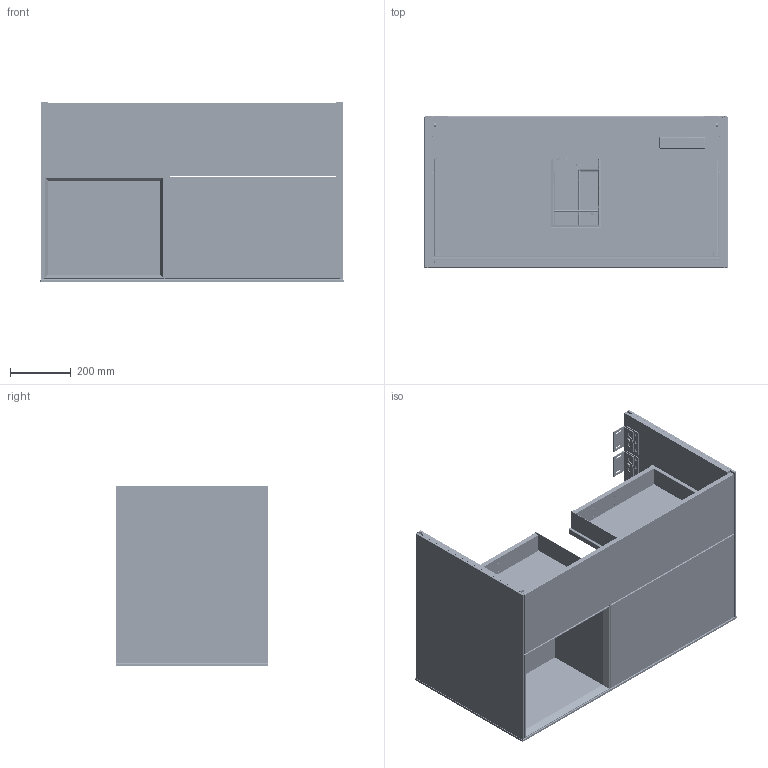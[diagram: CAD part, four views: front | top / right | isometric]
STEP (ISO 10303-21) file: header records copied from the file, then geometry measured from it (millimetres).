
FILE_DESCRIPTION((' '),'2;1');
FILE_NAME('M:\DWG\MÖBEL\3D-Zeichnungen Typen\Finion\STP\Finion_F030YYXX_3D.stp','2017-03-23T09:42:46',(' '),(' '),' ','ACIS',' ');
FILE_SCHEMA(('CONFIG_CONTROL_DESIGN'));
Length unit declared in the file: millimetre
Products named in the file (112): M:\DWG\MÖBEL\3D-Zeichnungen Typen\Finion\STP\Finion_F030YYXX_3D.stp; Körper1; Körper2; Körper3; Körper4; Körper5; Körper6; Körper7; Körper8; Körper9; Körper10; Körper11; Körper12; Körper13; Körper14; Körper15; Körper16; Körper17; Körper18; Körper19; Körper20; Körper21; Körper22; Körper23; Körper24; Körper25; Körper26; Körper27; Körper28; Körper29; Körper30; Körper31; Körper32; Körper33; Körper34; Körper35; Körper36; Körper37; Körper38; Körper39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
Assembly tree (111 placements, depth 2):
  M:\DWG\MÖBEL\3D-Zeichnungen Typen\Finion\STP\Finion_F030YYXX_3D.stp
    Körper1
    Körper2
    Körper3
    Körper4
    Körper5
    Körper6
    Körper7
    Körper8
    Körper9
    Körper10
    Körper11
    Körper12
    Körper13
    Körper14
    Körper15
    Körper16
    Körper17
    Körper18
    Körper19
    Körper20
    Körper21
    Körper22
    Körper23
    Körper24
    Körper25
    Körper26
    Körper27
    Körper28
    Körper29
    Körper30
    Körper31
    Körper32
    Körper33
    Körper34
    Körper35
    Körper36
    Körper37
    Körper38
    Körper39
    Körper40
    Körper41
    Körper42
    Körper43
    Körper44
    Körper45
    Körper46
    Körper47
    Körper48
    Körper49
    Körper50
    Körper51
    Körper52
    Körper53
    Körper54
    Körper55
    Körper56
    Körper57
    Körper58
    Körper59
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Bounding box: 996 x 498 x 591 mm (x, y, z)
Volume: 51223426.2 mm3; surface area: 9864472.7 mm2
Topology: 146 solids, 146 shells, 7492 faces, 19766 edges, 12945 vertices
Faces by surface type: bspline 2867, plane 2717, cylinder 1644, cone 197, torus 39, sphere 28
Full cylindrical faces by diameter (mm): 2.086 x3, 2.5 x11, 3 x22, 3.2 x2, 3.5 x1, 4 x6, 5 x2, 6 x4, 7 x2, 8 x23, 8.02 x16, 10 x16, 12 x1, 30 x2
Entity records: 321572 total; most frequent: CARTESIAN_POINT 126863, ORIENTED_EDGE 38658, DIRECTION 34056, EDGE_CURVE 19329, VERTEX_POINT 12868, VECTOR 12722, LINE 12722, AXIS2_PLACEMENT_3D 10667
